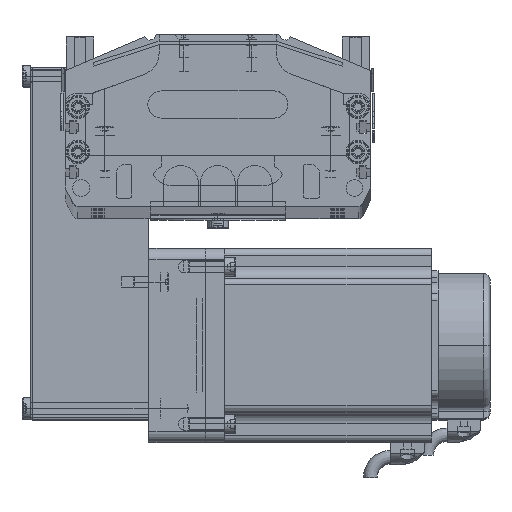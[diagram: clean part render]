
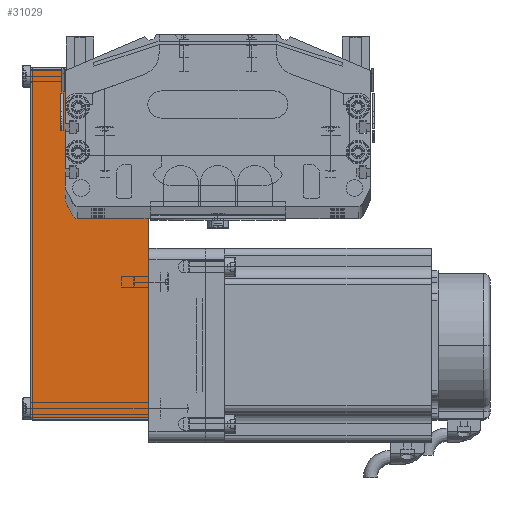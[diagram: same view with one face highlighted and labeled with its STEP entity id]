
A CAD part, top view. The second image highlights one B-rep face of the part: STEP entity #31029.
In plain terms, the highlighted planar face has unit normal (0, 0, 1) as drawn and (0, -1, 0) by its records, which use the part's own axes.
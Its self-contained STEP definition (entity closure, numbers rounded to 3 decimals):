
#27583 = VERTEX_POINT ( 'NONE', #60494 ) ;
#27589 = EDGE_CURVE ( 'NONE', #27591, #27583, #60495, .T. ) ;
#27591 = VERTEX_POINT ( 'NONE', #60609 ) ;
#27756 = VERTEX_POINT ( 'NONE', #60445 ) ;
#27758 = ORIENTED_EDGE ( 'NONE', *, *, #28274, .T. ) ;
#27759 = EDGE_CURVE ( 'NONE', #27756, #31002, #60440, .T. ) ;
#27944 = EDGE_CURVE ( 'NONE', #31002, #27591, #60931, .T. ) ;
#27962 = ORIENTED_EDGE ( 'NONE', *, *, #27589, .T. ) ;
#28274 = EDGE_CURVE ( 'NONE', #27583, #27756, #61085, .T. ) ;
#31002 = VERTEX_POINT ( 'NONE', #64106 ) ;
#31003 = ORIENTED_EDGE ( 'NONE', *, *, #27944, .T. ) ;
#31029 = ADVANCED_FACE ( 'NONE', ( #63991 ), #63995, .F. ) ;
#31077 = ORIENTED_EDGE ( 'NONE', *, *, #27759, .T. ) ;
#31081 = EDGE_LOOP ( 'NONE', ( #27962, #27758, #31077, #31003 ) ) ;
#60440 = LINE ( 'NONE', #60452, #60589 ) ;
#60445 = CARTESIAN_POINT ( 'NONE',  ( 31., -40., 51.5 ) ) ;
#60452 = CARTESIAN_POINT ( 'NONE',  ( 32., -40., 51.5 ) ) ;
#60463 = DIRECTION ( 'NONE',  ( 1., 0., 0. ) ) ;
#60465 = VECTOR ( 'NONE', #60463, 1000. ) ;
#60468 = CARTESIAN_POINT ( 'NONE',  ( 32., -40., 0. ) ) ;
#60494 = CARTESIAN_POINT ( 'NONE',  ( 31., -40., 0. ) ) ;
#60495 = LINE ( 'NONE', #60468, #60465 ) ;
#60588 = DIRECTION ( 'NONE',  ( -1., 0., 0. ) ) ;
#60589 = VECTOR ( 'NONE', #60588, 1000. ) ;
#60609 = CARTESIAN_POINT ( 'NONE',  ( -123.2, -40., 0. ) ) ;
#60927 = DIRECTION ( 'NONE',  ( 0., 0., -1. ) ) ;
#60928 = VECTOR ( 'NONE', #60927, 1000. ) ;
#60929 = CARTESIAN_POINT ( 'NONE',  ( -123.2, -40., 52.5 ) ) ;
#60931 = LINE ( 'NONE', #60929, #60928 ) ;
#60984 = DIRECTION ( 'NONE',  ( 0., 0., 1. ) ) ;
#61010 = VECTOR ( 'NONE', #60984, 1000. ) ;
#61084 = CARTESIAN_POINT ( 'NONE',  ( 31., -40., 52.5 ) ) ;
#61085 = LINE ( 'NONE', #61084, #61010 ) ;
#63991 = FACE_OUTER_BOUND ( 'NONE', #31081, .T. ) ;
#63995 = PLANE ( 'NONE',  #64366 ) ;
#64080 = DIRECTION ( 'NONE',  ( -1., 0., 0. ) ) ;
#64082 = DIRECTION ( 'NONE',  ( 0., 1., 0. ) ) ;
#64083 = CARTESIAN_POINT ( 'NONE',  ( 32., -40., 52.5 ) ) ;
#64106 = CARTESIAN_POINT ( 'NONE',  ( -123.2, -40., 51.5 ) ) ;
#64366 = AXIS2_PLACEMENT_3D ( 'NONE', #64083, #64082, #64080 ) ;
